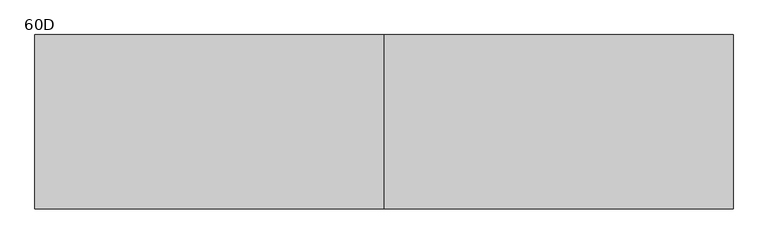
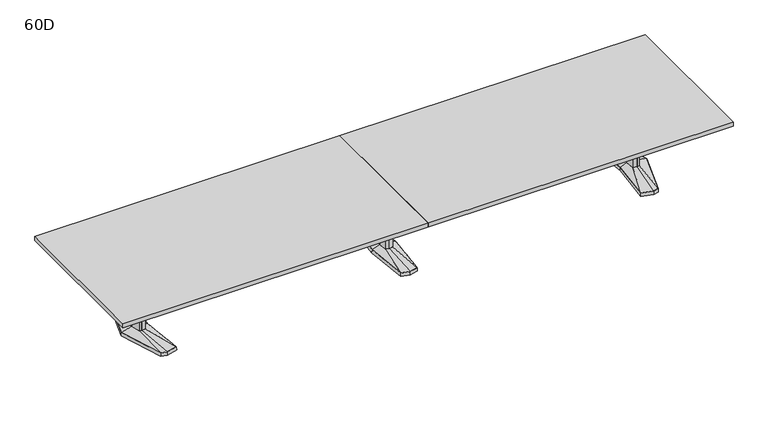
"""IFC4 building model written with IfcOpenShell, lengths in millimetres: furniture geometry, Coalesse_AM_Table_Conference_ETable2_Rectangular_20ft_AluminiumBase : 60D."""

from ifc_helpers import new_model, si_unit, frame, origin, place, context, project, spatial, polyline, outline, extrude, faceted_brep, source, transform, mapped, element, save
from ifc_brep_helpers import plane_surface, spline_surface, advanced_brep


def furniture_60d_595060a9(model_context):
    return source(origin(), model_context, "Body", "SolidModel", [
        faceted_brep([(-81.2333791, -433.8053819, 38.1), (0.0, -455.556576, 38.1), (81.2333791, -433.8053819, 38.1), (119.0564774, 0.0, 38.1), (81.2333791, 433.8053819, 38.1), (0.0, 455.556576, 38.1), (-81.2333791, 433.8053819, 38.1), (-119.0564774, 0.0, 38.1), (-82.7182795, -435.0512063, 3.175), (-120.65, 0.0, 3.175), (-82.7182795, 435.0512063, 3.175), (0.0, 457.2, 3.175), (82.7182795, 435.0512063, 3.175), (120.65, 0.0, 3.175), (82.7182795, -435.0512063, 3.175), (0.0, -457.2, 3.175), (0.0, 429.2617927, 3.175), (-77.9676806, 408.3850278, 3.175), (-74.7019821, 382.9646737, 3.175), (0.0, 402.9670094, 3.175), (74.7019821, 382.9646737, 3.175), (77.9676806, 408.3850278, 3.175), (0.0, -429.2617927, 3.175), (77.9676806, -408.3850278, 3.175), (74.7019821, -382.9646737, 3.175), (0.0, -402.9670094, 3.175), (-74.7019821, -382.9646737, 3.175), (-77.9676806, -408.3850278, 3.175), (-71.8574262, 114.6326257, 3.175), (-82.5426076, 0.0, 3.175), (-71.8574262, -114.6326257, 3.175), (0.0, -133.8761372, 3.175), (71.8574262, -114.6326257, 3.175), (82.5426076, 0.0, 3.175), (71.8574262, 114.6326257, 3.175), (0.0, 133.8761372, 3.175), (0.0, 429.2617927, 0.0), (77.9676806, 408.3850278, 0.0), (74.7019821, 382.9646737, 0.0), (0.0, 402.9670094, 0.0), (-74.7019821, 382.9646737, 0.0), (-77.9676806, 408.3850278, 0.0), (0.0, -429.2617927, 0.0), (-77.9676806, -408.3850278, 0.0), (-74.7019821, -382.9646737, 0.0), (0.0, -402.9670094, 0.0), (74.7019821, -382.9646737, 0.0), (77.9676806, -408.3850278, 0.0), (-71.8574262, 114.6326257, 0.0), (0.0, 133.8761372, 0.0), (71.8574262, 114.6326257, 0.0), (82.5426076, 0.0, 0.0), (71.8574262, -114.6326257, 0.0), (0.0, -133.8761372, 0.0), (-71.8574262, -114.6326257, 0.0), (-82.5426076, 0.0, 0.0)], [[[0, 1, 2, 3, 4, 5, 6, 7]], [[8, 9, 10, 11, 12, 13, 14, 15], [16, 17, 18, 19, 20, 21], [22, 23, 24, 25, 26, 27], [28, 29, 30, 31, 32, 33, 34, 35]], [[1, 0, 8, 15]], [[2, 1, 15, 14]], [[3, 2, 14, 13]], [[4, 3, 13, 12]], [[5, 4, 12, 11]], [[6, 5, 11, 10]], [[7, 6, 10, 9]], [[0, 7, 9, 8]], [[36, 37, 38, 39, 40, 41]], [[42, 43, 44, 45, 46, 47]], [[48, 49, 50, 51, 52, 53, 54, 55]], [[36, 41, 17, 16]], [[41, 40, 18, 17]], [[40, 39, 19, 18]], [[39, 38, 20, 19]], [[38, 37, 21, 20]], [[37, 36, 16, 21]], [[42, 47, 23, 22]], [[47, 46, 24, 23]], [[46, 45, 25, 24]], [[45, 44, 26, 25]], [[44, 43, 27, 26]], [[43, 42, 22, 27]], [[48, 55, 29, 28]], [[55, 54, 30, 29]], [[54, 53, 31, 30]], [[53, 52, 32, 31]], [[52, 51, 33, 32]], [[51, 50, 34, 33]], [[50, 49, 35, 34]], [[49, 48, 28, 35]]]),
        faceted_brep([(-36.3832834, 84.6900825, 698.5), (-44.2774487, 0.0, 698.5), (-36.3832834, -84.6900825, 698.5), (0.0, -94.4335728, 698.5), (36.3832834, -84.6900825, 698.5), (44.2774487, 0.0, 698.5), (36.3832834, 84.6900825, 698.5), (0.0, 94.4335728, 698.5), (-36.3832834, 84.6900825, 63.5), (0.0, 94.4335728, 63.5), (36.3832834, 84.6900825, 63.5), (44.2774487, 0.0, 63.5), (36.3832834, -84.6900825, 63.5), (0.0, -94.4335728, 63.5), (-36.3832834, -84.6900825, 63.5), (-44.2774487, 0.0, 63.5)], [[[0, 1, 2, 3, 4, 5, 6, 7]], [[8, 9, 10, 11, 12, 13, 14, 15]], [[1, 0, 8, 15]], [[2, 1, 15, 14]], [[3, 2, 14, 13]], [[4, 3, 13, 12]], [[5, 4, 12, 11]], [[6, 5, 11, 10]], [[7, 6, 10, 9]], [[0, 7, 9, 8]]]),
        advanced_brep(
        [(-36.3832834, 84.6900825, 63.5), (-44.2774487, 0.0, 63.5), (-36.3832834, -84.6900825, 63.5), (0.0, -94.4335728, 63.5), (36.3832834, -84.6900825, 63.5), (44.2774487, 0.0, 63.5), (36.3832834, 84.6900825, 63.5), (0.0, 94.4335728, 63.5), (-81.2333791, 433.8053819, 38.1), (0.0, 455.556576, 38.1), (81.2333791, 433.8053819, 38.1), (119.0564774, 0.0, 38.1), (81.2333791, -433.8053819, 38.1), (0.0, -455.556576, 38.1), (-81.2333791, -433.8053819, 38.1), (-119.0564774, 0.0, 38.1)],
        [
            (0, 1),
            (1, 2),
            (2, 3),
            (3, 4),
            (4, 5),
            (5, 6),
            (6, 7),
            (7, 0),
            (8, 9),
            (9, 10),
            (10, 11),
            (11, 12),
            (12, 13),
            (13, 14),
            (14, 15),
            (15, 8),
            (15, 1),
            (0, 8),
            (14, 2),
            (13, 3),
            (12, 4),
            (11, 5),
            (10, 6),
            (9, 7),
        ],
        [
            plane_surface(frame((0.0, 0.0, 63.5), z_axis=(0.0, 0.0, 1.0000000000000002), x_axis=(-0.9659615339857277, -0.25868574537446, 0.0))),
            plane_surface(frame((0.0, 0.0, 38.1), z_axis=(0.0, 0.0, -1.0000000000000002), x_axis=(-0.9659615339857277, -0.25868574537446, 0.0))),
            spline_surface(1, 1, [[(-81.2333791, 433.8053819, 38.1), (-36.3832834, 84.6900825, 63.5)], [(-119.0564774, 0.0, 38.1), (-44.2774487, 0.0, 63.5)]], [2, 2], [2, 2], [0.0, 1.0], [0.0, 1.0]),
            spline_surface(1, 1, [[(-119.0564774, 0.0, 38.1), (-44.2774487, 0.0, 63.5)], [(-81.2333791, -433.8053819, 38.1), (-36.3832834, -84.6900825, 63.5)]], [2, 2], [2, 2], [0.0, 1.0], [0.0, 1.0]),
            spline_surface(1, 1, [[(-81.2333791, -433.8053819, 38.1), (-36.3832834, -84.6900825, 63.5)], [(0.0, -455.556576, 38.1), (0.0, -94.4335728, 63.5)]], [2, 2], [2, 2], [0.0, 1.0], [0.0, 1.0]),
            spline_surface(1, 1, [[(0.0, -455.556576, 38.1), (0.0, -94.4335728, 63.5)], [(81.2333791, -433.8053819, 38.1), (36.3832834, -84.6900825, 63.5)]], [2, 2], [2, 2], [0.0, 1.0], [0.0, 1.0]),
            spline_surface(1, 1, [[(81.2333791, -433.8053819, 38.1), (36.3832834, -84.6900825, 63.5)], [(119.0564774, 0.0, 38.1), (44.2774487, 0.0, 63.5)]], [2, 2], [2, 2], [0.0, 1.0], [0.0, 1.0]),
            spline_surface(1, 1, [[(119.0564774, 0.0, 38.1), (44.2774487, 0.0, 63.5)], [(81.2333791, 433.8053819, 38.1), (36.3832834, 84.6900825, 63.5)]], [2, 2], [2, 2], [0.0, 1.0], [0.0, 1.0]),
            spline_surface(1, 1, [[(81.2333791, 433.8053819, 38.1), (36.3832834, 84.6900825, 63.5)], [(0.0, 455.556576, 38.1), (0.0, 94.4335728, 63.5)]], [2, 2], [2, 2], [0.0, 1.0], [0.0, 1.0]),
            spline_surface(1, 1, [[(0.0, 455.556576, 38.1), (0.0, 94.4335728, 63.5)], [(-81.2333791, 433.8053819, 38.1), (-36.3832834, 84.6900825, 63.5)]], [2, 2], [2, 2], [0.0, 1.0], [0.0, 1.0]),
        ],
        [
            (0, [[1, 2, 3, 4, 5, 6, 7, 8]]),
            (1, [[9, 10, 11, 12, 13, 14, 15, 16]]),
            (2, [[-16, 17, -1, 18]]),
            (3, [[-15, 19, -2, -17]]),
            (4, [[-14, 20, -3, -19]]),
            (5, [[-13, 21, -4, -20]]),
            (6, [[-12, 22, -5, -21]]),
            (7, [[-11, 23, -6, -22]]),
            (8, [[-10, 24, -7, -23]]),
            (9, [[-9, -18, -8, -24]]),
        ],
    ),
        faceted_brep([(2429.8306835, 455.5848221, 38.1), (2320.2531277, 426.2263816, 38.1), (2361.4163717, 0.0, 38.1), (2320.2531277, -426.2263816, 38.1), (2429.8306835, -455.5848221, 38.1), (2485.9570396, -440.5478297, 38.1), (2623.2684269, 0.0, 38.1), (2485.9570396, 440.5478297, 38.1), (2429.8306754, 457.2283104, 3.175), (2487.2124472, 441.8549756, 3.175), (2624.93125, 0.0, 3.175), (2487.2124472, -441.8549756, 3.175), (2429.8306754, -457.2283104, 3.175), (2318.54375, -427.4118891, 3.175), (2359.8214856, 0.0, 3.175), (2318.54375, 427.4118891, 3.175), (2433.420115, 428.3273875, 3.175), (2328.3718228, 402.1057253, 3.175), (2336.490518, 377.985069, 3.175), (2437.0095466, 401.0699529, 3.175), (2487.5691725, 387.524361, 3.175), (2486.7631061, 414.0360954, 3.175), (2433.420115, -428.3273875, 3.175), (2486.7631061, -414.0360954, 3.175), (2487.5691725, -387.524361, 3.175), (2437.0095466, -401.0699529, 3.175), (2336.490518, -377.985069, 3.175), (2328.3718228, -402.1057253, 3.175), (2560.0153621, 0.0, 3.175), (2527.7459611, 120.4193755, 3.175), (2479.0987222, 133.471665, 3.175), (2399.2180526, 119.4176561, 3.175), (2388.0868466, 0.0, 3.175), (2399.2180526, -119.4176561, 3.175), (2479.0987222, -133.471665, 3.175), (2527.7459611, -120.4193755, 3.175), (2433.420115, 428.3273875, 0.0), (2486.7631061, 414.0360954, 0.0), (2487.5691725, 387.524361, 0.0), (2437.0095466, 401.0699529, 0.0), (2336.490518, 377.985069, 0.0), (2328.3718228, 402.1057253, 0.0), (2433.420115, -428.3273875, 0.0), (2328.3718228, -402.1057253, 0.0), (2336.490518, -377.985069, 0.0), (2437.0095466, -401.0699529, 0.0), (2487.5691725, -387.524361, 0.0), (2486.7631061, -414.0360954, 0.0), (2560.0153621, 0.0, 0.0), (2527.7459611, -120.4193755, 0.0), (2479.0987222, -133.471665, 0.0), (2399.2180526, -119.4176561, 0.0), (2388.0868466, 0.0, 0.0), (2399.2180526, 119.4176561, 0.0), (2479.0987222, 133.471665, 0.0), (2527.7459611, 120.4193755, 0.0)], [[[0, 1, 2, 3, 4, 5, 6, 7]], [[8, 9, 10, 11, 12, 13, 14, 15], [16, 17, 18, 19, 20, 21], [22, 23, 24, 25, 26, 27], [28, 29, 30, 31, 32, 33, 34, 35]], [[7, 9, 8, 0]], [[6, 10, 9, 7]], [[5, 11, 10, 6]], [[4, 12, 11, 5]], [[3, 13, 12, 4]], [[2, 14, 13, 3]], [[1, 15, 14, 2]], [[0, 8, 15, 1]], [[36, 37, 38, 39, 40, 41]], [[42, 43, 44, 45, 46, 47]], [[48, 49, 50, 51, 52, 53, 54, 55]], [[36, 16, 21, 37]], [[37, 21, 20, 38]], [[38, 20, 19, 39]], [[39, 19, 18, 40]], [[40, 18, 17, 41]], [[41, 17, 16, 36]], [[42, 22, 27, 43]], [[43, 27, 26, 44]], [[44, 26, 25, 45]], [[45, 25, 24, 46]], [[46, 24, 23, 47]], [[47, 23, 22, 42]], [[48, 28, 35, 49]], [[49, 35, 34, 50]], [[50, 34, 33, 51]], [[51, 33, 32, 52]], [[52, 32, 31, 53]], [[53, 31, 30, 54]], [[54, 30, 29, 55]], [[55, 29, 28, 48]]]),
        faceted_brep([(2520.5710836, 0.0, 698.5), (2496.6358546, 89.3188359, 698.5), (2479.7824984, 93.8406728, 698.5), (2477.3826511, 94.4845635, 698.5), (2434.455146, 86.9320037, 698.5), (2426.3520056, 0.0, 698.5), (2434.455146, -86.9320037, 698.5), (2477.3826511, -94.4845635, 698.5), (2479.7824984, -93.8406728, 698.5), (2496.6358546, -89.3188359, 698.5), (2520.5710836, 0.0, 63.5), (2496.6358546, -89.3188359, 63.5), (2479.7824984, -93.8406728, 63.5), (2477.3826511, -94.4845635, 63.5), (2434.455146, -86.9320037, 63.5), (2426.3520056, 0.0, 63.5), (2434.455146, 86.9320037, 63.5), (2477.3826511, 94.4845635, 63.5), (2479.7824984, 93.8406728, 63.5), (2496.6358546, 89.3188359, 63.5)], [[[0, 1, 2, 3, 4, 5, 6, 7, 8, 9]], [[10, 11, 12, 13, 14, 15, 16, 17, 18, 19]], [[9, 11, 10, 0]], [[8, 12, 11, 9]], [[7, 13, 12, 8]], [[6, 14, 13, 7]], [[5, 15, 14, 6]], [[4, 16, 15, 5]], [[3, 17, 16, 4]], [[2, 18, 17, 3]], [[1, 19, 18, 2]], [[0, 10, 19, 1]]]),
        advanced_brep(
        [(2477.3826511, 94.4845635, 63.5), (2434.455146, 86.9320037, 63.5), (2426.3520056, 0.0, 63.5), (2434.455146, -86.9320037, 63.5), (2477.3826511, -94.4845635, 63.5), (2496.6358546, -89.3188359, 63.5), (2520.5710836, 0.0, 63.5), (2496.6358546, 89.3188359, 63.5), (2429.8306835, 455.5848221, 38.1), (2485.9570396, 440.5478297, 38.1), (2623.2684269, 0.0, 38.1), (2485.9570396, -440.5478297, 38.1), (2429.8306835, -455.5848221, 38.1), (2320.2531277, -426.2263816, 38.1), (2361.4163717, 0.0, 38.1), (2320.2531277, 426.2263816, 38.1)],
        [
            (0, 1),
            (1, 2),
            (2, 3),
            (3, 4),
            (4, 5),
            (5, 6),
            (6, 7),
            (7, 0),
            (8, 9),
            (9, 10),
            (10, 11),
            (11, 12),
            (12, 13),
            (13, 14),
            (14, 15),
            (15, 8),
            (8, 0),
            (7, 9),
            (6, 10),
            (5, 11),
            (4, 12),
            (3, 13),
            (2, 14),
            (1, 15),
        ],
        [
            plane_surface(frame((2470.4837991, 0.0, 63.5), z_axis=(0.0, 0.0, 1.0), x_axis=(-0.25884244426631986, -0.9659195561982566, 0.0))),
            plane_surface(frame((2432.0958125, 0.0, 38.1), z_axis=(0.0, 0.0, -1.0), x_axis=(-0.25884244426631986, -0.9659195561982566, 0.0))),
            spline_surface(1, 1, [[(2429.8306835, 455.5848221, 38.1), (2485.9570396, 440.5478297, 38.1)], [(2477.3826511, 94.4845635, 63.5), (2496.6358546, 89.3188359, 63.5)]], [2, 2], [2, 2], [0.0, 1.0], [0.0, 1.0]),
            spline_surface(1, 1, [[(2485.9570396, 440.5478297, 38.1), (2623.2684269, 0.0, 38.1)], [(2496.6358546, 89.3188359, 63.5), (2520.5710836, 0.0, 63.5)]], [2, 2], [2, 2], [0.0, 1.0], [0.0, 1.0]),
            spline_surface(1, 1, [[(2623.2684269, 0.0, 38.1), (2485.9570396, -440.5478297, 38.1)], [(2520.5710836, 0.0, 63.5), (2496.6358546, -89.3188359, 63.5)]], [2, 2], [2, 2], [0.0, 1.0], [0.0, 1.0]),
            spline_surface(1, 1, [[(2485.9570396, -440.5478297, 38.1), (2429.8306835, -455.5848221, 38.1)], [(2496.6358546, -89.3188359, 63.5), (2477.3826511, -94.4845635, 63.5)]], [2, 2], [2, 2], [0.0, 1.0], [0.0, 1.0]),
            spline_surface(1, 1, [[(2429.8306835, -455.5848221, 38.1), (2320.2531277, -426.2263816, 38.1)], [(2477.3826511, -94.4845635, 63.5), (2434.455146, -86.9320037, 63.5)]], [2, 2], [2, 2], [0.0, 1.0], [0.0, 1.0]),
            spline_surface(1, 1, [[(2320.2531277, -426.2263816, 38.1), (2361.4163717, 0.0, 38.1)], [(2434.455146, -86.9320037, 63.5), (2426.3520056, 0.0, 63.5)]], [2, 2], [2, 2], [0.0, 1.0], [0.0, 1.0]),
            spline_surface(1, 1, [[(2361.4163717, 0.0, 38.1), (2320.2531277, 426.2263816, 38.1)], [(2426.3520056, 0.0, 63.5), (2434.455146, 86.9320037, 63.5)]], [2, 2], [2, 2], [0.0, 1.0], [0.0, 1.0]),
            spline_surface(1, 1, [[(2320.2531277, 426.2263816, 38.1), (2429.8306835, 455.5848221, 38.1)], [(2434.455146, 86.9320037, 63.5), (2477.3826511, 94.4845635, 63.5)]], [2, 2], [2, 2], [0.0, 1.0], [0.0, 1.0]),
        ],
        [
            (0, [[1, 2, 3, 4, 5, 6, 7, 8]]),
            (1, [[9, 10, 11, 12, 13, 14, 15, 16]]),
            (2, [[17, -8, 18, -9]]),
            (3, [[-18, -7, 19, -10]]),
            (4, [[-19, -6, 20, -11]]),
            (5, [[-20, -5, 21, -12]]),
            (6, [[-21, -4, 22, -13]]),
            (7, [[-22, -3, 23, -14]]),
            (8, [[-23, -2, 24, -15]]),
            (9, [[-24, -1, -17, -16]]),
        ],
    ),
        faceted_brep([(-2429.8306835, 455.5848221, 38.1), (-2485.9570396, 440.5478297, 38.1), (-2623.2684269, 0.0, 38.1), (-2485.9570396, -440.5478297, 38.1), (-2429.8306835, -455.5848221, 38.1), (-2320.2531277, -426.2263816, 38.1), (-2361.4163717, 0.0, 38.1), (-2320.2531277, 426.2263816, 38.1), (-2429.8306754, 457.2283104, 3.175), (-2318.54375, 427.4118891, 3.175), (-2359.8214856, 0.0, 3.175), (-2318.54375, -427.4118891, 3.175), (-2429.8306754, -457.2283104, 3.175), (-2487.2124472, -441.8549756, 3.175), (-2624.93125, 0.0, 3.175), (-2487.2124472, 441.8549756, 3.175), (-2433.420115, 428.3273875, 3.175), (-2486.7631061, 414.0360954, 3.175), (-2487.5691725, 387.524361, 3.175), (-2437.0095466, 401.0699529, 3.175), (-2336.490518, 377.985069, 3.175), (-2328.3718228, 402.1057253, 3.175), (-2433.420115, -428.3273875, 3.175), (-2328.3718228, -402.1057253, 3.175), (-2336.490518, -377.985069, 3.175), (-2437.0095466, -401.0699529, 3.175), (-2487.5691725, -387.524361, 3.175), (-2486.7631061, -414.0360954, 3.175), (-2560.0153621, 0.0, 3.175), (-2527.7459611, -120.4193755, 3.175), (-2479.0987222, -133.471665, 3.175), (-2399.2180526, -119.4176561, 3.175), (-2388.0868466, 0.0, 3.175), (-2399.2180526, 119.4176561, 3.175), (-2479.0987222, 133.471665, 3.175), (-2527.7459611, 120.4193755, 3.175), (-2433.420115, 428.3273875, 0.0), (-2328.3718228, 402.1057253, 0.0), (-2336.490518, 377.985069, 0.0), (-2437.0095466, 401.0699529, 0.0), (-2487.5691725, 387.524361, 0.0), (-2486.7631061, 414.0360954, 0.0), (-2433.420115, -428.3273875, 0.0), (-2486.7631061, -414.0360954, 0.0), (-2487.5691725, -387.524361, 0.0), (-2437.0095466, -401.0699529, 0.0), (-2336.490518, -377.985069, 0.0), (-2328.3718228, -402.1057253, 0.0), (-2560.0153621, 0.0, 0.0), (-2527.7459611, 120.4193755, 0.0), (-2479.0987222, 133.471665, 0.0), (-2399.2180526, 119.4176561, 0.0), (-2388.0868466, 0.0, 0.0), (-2399.2180526, -119.4176561, 0.0), (-2479.0987222, -133.471665, 0.0), (-2527.7459611, -120.4193755, 0.0)], [[[0, 1, 2, 3, 4, 5, 6, 7]], [[8, 9, 10, 11, 12, 13, 14, 15], [16, 17, 18, 19, 20, 21], [22, 23, 24, 25, 26, 27], [28, 29, 30, 31, 32, 33, 34, 35]], [[1, 0, 8, 15]], [[2, 1, 15, 14]], [[3, 2, 14, 13]], [[4, 3, 13, 12]], [[5, 4, 12, 11]], [[6, 5, 11, 10]], [[7, 6, 10, 9]], [[0, 7, 9, 8]], [[36, 37, 38, 39, 40, 41]], [[42, 43, 44, 45, 46, 47]], [[48, 49, 50, 51, 52, 53, 54, 55]], [[36, 41, 17, 16]], [[41, 40, 18, 17]], [[40, 39, 19, 18]], [[39, 38, 20, 19]], [[38, 37, 21, 20]], [[37, 36, 16, 21]], [[42, 47, 23, 22]], [[47, 46, 24, 23]], [[46, 45, 25, 24]], [[45, 44, 26, 25]], [[44, 43, 27, 26]], [[43, 42, 22, 27]], [[48, 55, 29, 28]], [[55, 54, 30, 29]], [[54, 53, 31, 30]], [[53, 52, 32, 31]], [[52, 51, 33, 32]], [[51, 50, 34, 33]], [[50, 49, 35, 34]], [[49, 48, 28, 35]]]),
        faceted_brep([(-2520.5710836, 0.0, 698.5), (-2496.6358546, -89.3188359, 698.5), (-2479.7824984, -93.8406728, 698.5), (-2477.3826511, -94.4845635, 698.5), (-2434.455146, -86.9320037, 698.5), (-2426.3520056, 0.0, 698.5), (-2434.455146, 86.9320037, 698.5), (-2477.3826511, 94.4845635, 698.5), (-2479.7824984, 93.8406728, 698.5), (-2496.6358546, 89.3188359, 698.5), (-2520.5710836, 0.0, 63.5), (-2496.6358546, 89.3188359, 63.5), (-2479.7824984, 93.8406728, 63.5), (-2477.3826511, 94.4845635, 63.5), (-2434.455146, 86.9320037, 63.5), (-2426.3520056, 0.0, 63.5), (-2434.455146, -86.9320037, 63.5), (-2477.3826511, -94.4845635, 63.5), (-2479.7824984, -93.8406728, 63.5), (-2496.6358546, -89.3188359, 63.5)], [[[0, 1, 2, 3, 4, 5, 6, 7, 8, 9]], [[10, 11, 12, 13, 14, 15, 16, 17, 18, 19]], [[1, 0, 10, 19]], [[2, 1, 19, 18]], [[3, 2, 18, 17]], [[4, 3, 17, 16]], [[5, 4, 16, 15]], [[6, 5, 15, 14]], [[7, 6, 14, 13]], [[8, 7, 13, 12]], [[9, 8, 12, 11]], [[0, 9, 11, 10]]]),
        advanced_brep(
        [(-2477.3826511, 94.4845635, 63.5), (-2496.6358546, 89.3188359, 63.5), (-2520.5710836, 0.0, 63.5), (-2496.6358546, -89.3188359, 63.5), (-2477.3826511, -94.4845635, 63.5), (-2434.455146, -86.9320037, 63.5), (-2426.3520056, 0.0, 63.5), (-2434.455146, 86.9320037, 63.5), (-2429.8306835, 455.5848221, 38.1), (-2320.2531277, 426.2263816, 38.1), (-2361.4163717, 0.0, 38.1), (-2320.2531277, -426.2263816, 38.1), (-2429.8306835, -455.5848221, 38.1), (-2485.9570396, -440.5478297, 38.1), (-2623.2684269, 0.0, 38.1), (-2485.9570396, 440.5478297, 38.1)],
        [
            (0, 1),
            (1, 2),
            (2, 3),
            (3, 4),
            (4, 5),
            (5, 6),
            (6, 7),
            (7, 0),
            (8, 9),
            (9, 10),
            (10, 11),
            (11, 12),
            (12, 13),
            (13, 14),
            (14, 15),
            (15, 8),
            (15, 1),
            (0, 8),
            (14, 2),
            (13, 3),
            (12, 4),
            (11, 5),
            (10, 6),
            (9, 7),
        ],
        [
            plane_surface(frame((-2470.4837991, 0.0, 63.5), z_axis=(0.0, 0.0, 1.0), x_axis=(0.25884244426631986, -0.9659195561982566, 0.0))),
            plane_surface(frame((-2432.0958125, 0.0, 38.1), z_axis=(0.0, 0.0, -1.0), x_axis=(0.25884244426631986, -0.9659195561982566, 0.0))),
            spline_surface(1, 1, [[(-2429.8306835, 455.5848221, 38.1), (-2477.3826511, 94.4845635, 63.5)], [(-2485.9570396, 440.5478297, 38.1), (-2496.6358546, 89.3188359, 63.5)]], [2, 2], [2, 2], [0.0, 1.0], [0.0, 1.0]),
            spline_surface(1, 1, [[(-2485.9570396, 440.5478297, 38.1), (-2496.6358546, 89.3188359, 63.5)], [(-2623.2684269, 0.0, 38.1), (-2520.5710836, 0.0, 63.5)]], [2, 2], [2, 2], [0.0, 1.0], [0.0, 1.0]),
            spline_surface(1, 1, [[(-2623.2684269, 0.0, 38.1), (-2520.5710836, 0.0, 63.5)], [(-2485.9570396, -440.5478297, 38.1), (-2496.6358546, -89.3188359, 63.5)]], [2, 2], [2, 2], [0.0, 1.0], [0.0, 1.0]),
            spline_surface(1, 1, [[(-2485.9570396, -440.5478297, 38.1), (-2496.6358546, -89.3188359, 63.5)], [(-2429.8306835, -455.5848221, 38.1), (-2477.3826511, -94.4845635, 63.5)]], [2, 2], [2, 2], [0.0, 1.0], [0.0, 1.0]),
            spline_surface(1, 1, [[(-2429.8306835, -455.5848221, 38.1), (-2477.3826511, -94.4845635, 63.5)], [(-2320.2531277, -426.2263816, 38.1), (-2434.455146, -86.9320037, 63.5)]], [2, 2], [2, 2], [0.0, 1.0], [0.0, 1.0]),
            spline_surface(1, 1, [[(-2320.2531277, -426.2263816, 38.1), (-2434.455146, -86.9320037, 63.5)], [(-2361.4163717, 0.0, 38.1), (-2426.3520056, 0.0, 63.5)]], [2, 2], [2, 2], [0.0, 1.0], [0.0, 1.0]),
            spline_surface(1, 1, [[(-2361.4163717, 0.0, 38.1), (-2426.3520056, 0.0, 63.5)], [(-2320.2531277, 426.2263816, 38.1), (-2434.455146, 86.9320037, 63.5)]], [2, 2], [2, 2], [0.0, 1.0], [0.0, 1.0]),
            spline_surface(1, 1, [[(-2320.2531277, 426.2263816, 38.1), (-2434.455146, 86.9320037, 63.5)], [(-2429.8306835, 455.5848221, 38.1), (-2477.3826511, 94.4845635, 63.5)]], [2, 2], [2, 2], [0.0, 1.0], [0.0, 1.0]),
        ],
        [
            (0, [[1, 2, 3, 4, 5, 6, 7, 8]]),
            (1, [[9, 10, 11, 12, 13, 14, 15, 16]]),
            (2, [[-16, 17, -1, 18]]),
            (3, [[-15, 19, -2, -17]]),
            (4, [[-14, 20, -3, -19]]),
            (5, [[-13, 21, -4, -20]]),
            (6, [[-12, 22, -5, -21]]),
            (7, [[-11, 23, -6, -22]]),
            (8, [[-10, 24, -7, -23]]),
            (9, [[-9, -18, -8, -24]]),
        ],
    ),
        extrude(outline(polyline([(96.8375, 698.5), (103.1875, 698.5), (103.1875, 476.25), (-103.1875, 476.25), (-103.1875, 698.5), (-96.8375, 698.5), (-96.8375, 482.6), (96.8375, 482.6), (96.8375, 698.5)])), frame((44.2774487, 0.0, 0.0), z_axis=(1.0, 0.0, 0.0), x_axis=(0.0, 1.0, 0.0)), (0.0, 0.0, 1.0), 2382.2163013),
        extrude(outline(polyline([(3048.0, 762.0), (3048.0, -762.0), (0.0, -762.0), (0.0, 762.0), (3048.0, 762.0)])), frame((0.0, 0.0, 698.5), z_axis=(0.0, 0.0, 1.0), x_axis=(1.0, 0.0, 0.0)), (0.0, 0.0, 1.0), 38.1),
        extrude(outline(polyline([(0.0, 762.0), (0.0, -762.0), (-3048.0, -762.0), (-3048.0, 762.0), (0.0, 762.0)])), frame((0.0, 0.0, 698.5), z_axis=(0.0, 0.0, 1.0), x_axis=(1.0, 0.0, 0.0)), (0.0, 0.0, 1.0), 38.1),
        extrude(outline(polyline([(96.8375, 698.5), (103.1875, 698.5), (103.1875, 476.25), (-103.1875, 476.25), (-103.1875, 698.5), (-96.8375, 698.5), (-96.8375, 482.6), (96.8375, 482.6), (96.8375, 698.5)])), frame((-2426.49375, 0.0, 0.0), z_axis=(1.0, 0.0, 0.0), x_axis=(0.0, 1.0, 0.0)), (0.0, 0.0, 1.0), 2382.2163013),
    ])


if __name__ == "__main__":
    model = new_model("IFC4")
    model_context = context("Model", 3, world=origin())
    ifc_project = project(units=[si_unit("LENGTHUNIT", "METRE", prefix="MILLI")], contexts=[model_context])
    site = spatial("IfcSite", under=ifc_project)
    building = spatial("IfcBuilding", under=site)
    placement = place(None, origin())
    furniture_60d_shape = furniture_60d_595060a9(model_context)
    element("IfcFurniture", 1, ObjectType="Coalesse_AM_Table_Conference_ETable2_Rectangular_20ft_AluminiumBase : 60D", at=placement, inside=building, context=model_context, shape_type="MappedRepresentation", body=[
        mapped(furniture_60d_shape, transform((0.0, 0.0, 0.0), x_axis=(1.0, 0.0, 0.0), y_axis=(0.0, 1.0, 0.0), z_axis=(0.0, 0.0, 1.0))),
    ])
    save(model, "model.ifc")
